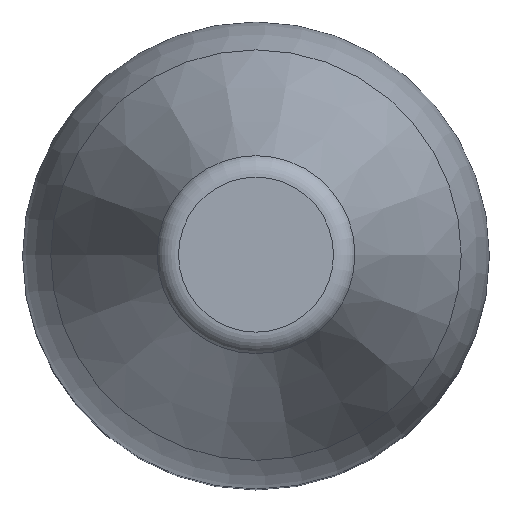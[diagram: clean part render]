
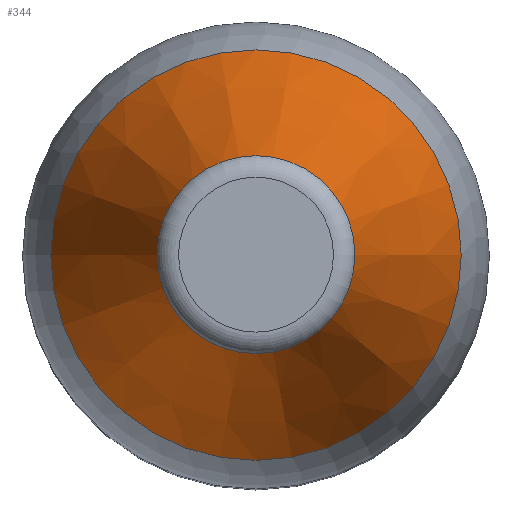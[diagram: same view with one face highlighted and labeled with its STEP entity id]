
A CAD part, top view. The second image highlights one B-rep face of the part: STEP entity #344.
In plain terms, the highlighted conical face has half-angle 20 degrees and reference radius 2.755 mm.
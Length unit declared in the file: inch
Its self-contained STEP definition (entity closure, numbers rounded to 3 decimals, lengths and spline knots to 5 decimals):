
#33 = VERTEX_POINT ( 'NONE', #236 ) ;
#35 = ORIENTED_EDGE ( 'NONE', *, *, #125, .F. ) ;
#62 = EDGE_LOOP ( 'NONE', ( #266 ) ) ;
#73 = DIRECTION ( 'NONE',  ( -1., 0., 0. ) ) ;
#95 = FACE_BOUND ( 'NONE', #62, .T. ) ;
#125 = EDGE_CURVE ( 'NONE', #33, #33, #326, .T. ) ;
#136 = CONICAL_SURFACE ( 'NONE', #343, 0.10847, 0.349 ) ;
#138 = CIRCLE ( 'NONE', #313, 0.10847 ) ;
#149 = FACE_OUTER_BOUND ( 'NONE', #329, .T. ) ;
#165 = DIRECTION ( 'NONE',  ( 0., 0., -1. ) ) ;
#183 = VERTEX_POINT ( 'NONE', #207 ) ;
#199 = EDGE_CURVE ( 'NONE', #183, #183, #138, .T. ) ;
#207 = CARTESIAN_POINT ( 'NONE',  ( -0.10847, 0., 0.59536 ) ) ;
#236 = CARTESIAN_POINT ( 'NONE',  ( -0.22503, 0., 0.27511 ) ) ;
#265 = DIRECTION ( 'NONE',  ( 0., 0., -1. ) ) ;
#266 = ORIENTED_EDGE ( 'NONE', *, *, #199, .T. ) ;
#270 = CARTESIAN_POINT ( 'NONE',  ( 0., 0., 0.59536 ) ) ;
#295 = DIRECTION ( 'NONE',  ( -1., 0., 0. ) ) ;
#308 = DIRECTION ( 'NONE',  ( 0., 0., -1. ) ) ;
#313 = AXIS2_PLACEMENT_3D ( 'NONE', #333, #165, #331 ) ;
#326 = CIRCLE ( 'NONE', #356, 0.22503 ) ;
#329 = EDGE_LOOP ( 'NONE', ( #35 ) ) ;
#331 = DIRECTION ( 'NONE',  ( -1., 0., 0. ) ) ;
#333 = CARTESIAN_POINT ( 'NONE',  ( 0., 0., 0.59536 ) ) ;
#343 = AXIS2_PLACEMENT_3D ( 'NONE', #270, #265, #295 ) ;
#344 = ADVANCED_FACE ( 'NONE', ( #149, #95 ), #136, .T. ) ;
#356 = AXIS2_PLACEMENT_3D ( 'NONE', #357, #308, #73 ) ;
#357 = CARTESIAN_POINT ( 'NONE',  ( 0., 0., 0.27511 ) ) ;
